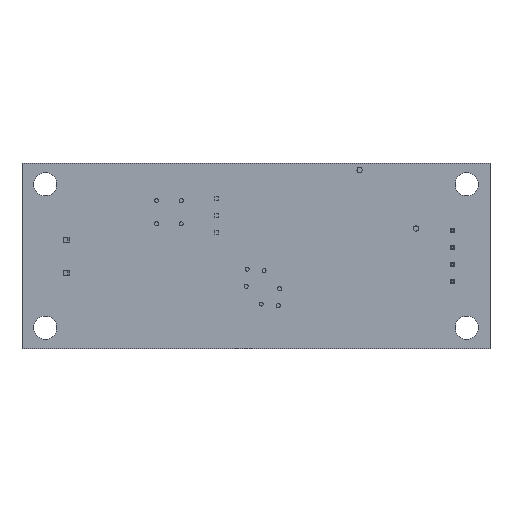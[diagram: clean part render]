
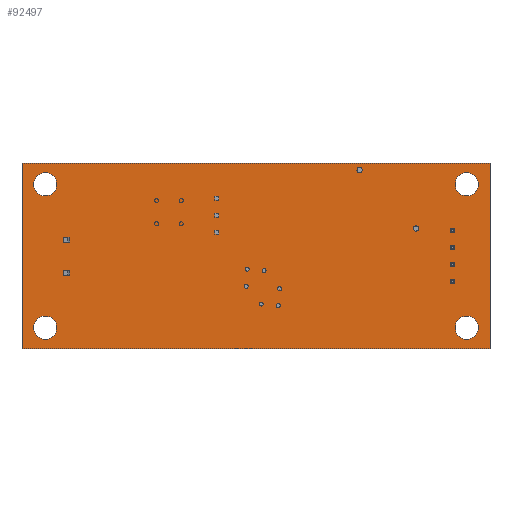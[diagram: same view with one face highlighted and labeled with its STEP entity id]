
A CAD part, front view. The second image highlights one B-rep face of the part: STEP entity #92497.
In plain terms, the highlighted planar face has unit normal (0, -1, 0) as drawn and (0, 0, -1) by its records, which use the part's own axes.
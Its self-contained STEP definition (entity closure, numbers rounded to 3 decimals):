
#2093 = ORIENTED_EDGE ( 'NONE', *, *, #18227, .F. ) ;
#3780 = CARTESIAN_POINT ( 'NONE',  ( 40.925, 49.225, -1. ) ) ;
#3992 = AXIS2_PLACEMENT_3D ( 'NONE', #22429, #101282, #66297 ) ;
#4929 = FACE_BOUND ( 'NONE', #37560, .T. ) ;
#6215 = CARTESIAN_POINT ( 'NONE',  ( 40.925, 77.165, -1. ) ) ;
#7015 = EDGE_LOOP ( 'NONE', ( #67531, #120065 ) ) ;
#7872 = VECTOR ( 'NONE', #119106, 1000. ) ;
#8015 = VERTEX_POINT ( 'NONE', #140858 ) ;
#10531 = CARTESIAN_POINT ( 'NONE',  ( 46.175, 73.99, -1. ) ) ;
#11826 = CIRCLE ( 'NONE', #101366, 1.75 ) ;
#12283 = ORIENTED_EDGE ( 'NONE', *, *, #83064, .T. ) ;
#13097 = LINE ( 'NONE', #6215, #7872 ) ;
#14016 = CARTESIAN_POINT ( 'NONE',  ( 44.425, 73.99, -1. ) ) ;
#14518 = EDGE_CURVE ( 'NONE', #93485, #129705, #59864, .T. ) ;
#14736 = DIRECTION ( 'NONE',  ( -1., 0., 0. ) ) ;
#16379 = CARTESIAN_POINT ( 'NONE',  ( 109.675, 52.4, -1. ) ) ;
#18227 = EDGE_CURVE ( 'NONE', #66218, #110056, #63214, .T. ) ;
#20766 = EDGE_CURVE ( 'NONE', #8015, #40365, #85027, .T. ) ;
#21906 = CIRCLE ( 'NONE', #122932, 1.75 ) ;
#21949 = CARTESIAN_POINT ( 'NONE',  ( 109.675, 73.99, -1. ) ) ;
#22341 = CIRCLE ( 'NONE', #137098, 1.75 ) ;
#22429 = CARTESIAN_POINT ( 'NONE',  ( 40.925, 49.225, -1. ) ) ;
#23604 = EDGE_CURVE ( 'NONE', #129705, #66218, #13097, .T. ) ;
#24782 = EDGE_LOOP ( 'NONE', ( #110118, #121414 ) ) ;
#27899 = CARTESIAN_POINT ( 'NONE',  ( 44.425, 52.4, -1. ) ) ;
#28104 = DIRECTION ( 'NONE',  ( 0., 0., 1. ) ) ;
#28133 = DIRECTION ( 'NONE',  ( 1., 0., 0. ) ) ;
#29070 = DIRECTION ( 'NONE',  ( 1., 0., 0. ) ) ;
#29470 = EDGE_CURVE ( 'NONE', #67763, #128928, #11826, .T. ) ;
#29803 = CARTESIAN_POINT ( 'NONE',  ( 107.925, 73.99, -1. ) ) ;
#29827 = EDGE_CURVE ( 'NONE', #40365, #8015, #71676, .T. ) ;
#31413 = FACE_OUTER_BOUND ( 'NONE', #120724, .T. ) ;
#31708 = CARTESIAN_POINT ( 'NONE',  ( 111.425, 77.165, -1. ) ) ;
#32410 = ORIENTED_EDGE ( 'NONE', *, *, #14518, .F. ) ;
#34958 = FACE_BOUND ( 'NONE', #68244, .T. ) ;
#37560 = EDGE_LOOP ( 'NONE', ( #110985, #43966 ) ) ;
#38717 = EDGE_CURVE ( 'NONE', #49362, #120329, #21906, .T. ) ;
#39193 = EDGE_CURVE ( 'NONE', #83913, #84195, #22341, .T. ) ;
#40365 = VERTEX_POINT ( 'NONE', #21949 ) ;
#43966 = ORIENTED_EDGE ( 'NONE', *, *, #97110, .T. ) ;
#45128 = PLANE ( 'NONE',  #3992 ) ;
#45205 = CARTESIAN_POINT ( 'NONE',  ( 111.425, 77.165, -1. ) ) ;
#49362 = VERTEX_POINT ( 'NONE', #10531 ) ;
#50508 = LINE ( 'NONE', #45205, #75254 ) ;
#54118 = AXIS2_PLACEMENT_3D ( 'NONE', #27899, #94502, #141294 ) ;
#59864 = LINE ( 'NONE', #117768, #144450 ) ;
#63214 = LINE ( 'NONE', #78895, #86143 ) ;
#63821 = DIRECTION ( 'NONE',  ( 0., 0., 1. ) ) ;
#64611 = AXIS2_PLACEMENT_3D ( 'NONE', #29803, #63821, #76155 ) ;
#64934 = FACE_BOUND ( 'NONE', #7015, .T. ) ;
#66218 = VERTEX_POINT ( 'NONE', #3780 ) ;
#66297 = DIRECTION ( 'NONE',  ( 1., 0., 0. ) ) ;
#67062 = CARTESIAN_POINT ( 'NONE',  ( 46.175, 52.4, -1. ) ) ;
#67531 = ORIENTED_EDGE ( 'NONE', *, *, #39193, .T. ) ;
#67763 = VERTEX_POINT ( 'NONE', #16379 ) ;
#68244 = EDGE_LOOP ( 'NONE', ( #71065, #12283 ) ) ;
#68876 = CARTESIAN_POINT ( 'NONE',  ( 107.925, 73.99, -1. ) ) ;
#71065 = ORIENTED_EDGE ( 'NONE', *, *, #38717, .T. ) ;
#71676 = CIRCLE ( 'NONE', #123227, 1.75 ) ;
#75009 = DIRECTION ( 'NONE',  ( 0., 0., 1. ) ) ;
#75254 = VECTOR ( 'NONE', #133953, 1000. ) ;
#76155 = DIRECTION ( 'NONE',  ( 1., 0., 0. ) ) ;
#77753 = AXIS2_PLACEMENT_3D ( 'NONE', #117378, #83407, #28133 ) ;
#78895 = CARTESIAN_POINT ( 'NONE',  ( 40.925, 49.225, -1. ) ) ;
#80131 = DIRECTION ( 'NONE',  ( 1., 0., 0. ) ) ;
#83064 = EDGE_CURVE ( 'NONE', #120329, #49362, #95449, .T. ) ;
#83407 = DIRECTION ( 'NONE',  ( 0., 0., 1. ) ) ;
#83913 = VERTEX_POINT ( 'NONE', #67062 ) ;
#84195 = VERTEX_POINT ( 'NONE', #115641 ) ;
#85027 = CIRCLE ( 'NONE', #64611, 1.75 ) ;
#85313 = CARTESIAN_POINT ( 'NONE',  ( 107.925, 52.4, -1. ) ) ;
#85743 = CARTESIAN_POINT ( 'NONE',  ( 40.925, 77.165, -1. ) ) ;
#86143 = VECTOR ( 'NONE', #101025, 1000. ) ;
#86301 = ORIENTED_EDGE ( 'NONE', *, *, #23604, .F. ) ;
#86838 = CARTESIAN_POINT ( 'NONE',  ( 44.425, 52.4, -1. ) ) ;
#87047 = DIRECTION ( 'NONE',  ( 0., 0., 1. ) ) ;
#88279 = AXIS2_PLACEMENT_3D ( 'NONE', #98391, #87047, #133333 ) ;
#91426 = FACE_BOUND ( 'NONE', #24782, .T. ) ;
#92497 = ADVANCED_FACE ( 'NONE', ( #64934, #34958, #4929, #91426, #31413 ), #45128, .F. ) ;
#93485 = VERTEX_POINT ( 'NONE', #31708 ) ;
#94502 = DIRECTION ( 'NONE',  ( 0., 0., 1. ) ) ;
#95449 = CIRCLE ( 'NONE', #88279, 1.75 ) ;
#97110 = EDGE_CURVE ( 'NONE', #128928, #67763, #106356, .T. ) ;
#98391 = CARTESIAN_POINT ( 'NONE',  ( 44.425, 73.99, -1. ) ) ;
#99208 = EDGE_CURVE ( 'NONE', #110056, #93485, #50508, .T. ) ;
#100787 = CARTESIAN_POINT ( 'NONE',  ( 106.175, 52.4, -1. ) ) ;
#101025 = DIRECTION ( 'NONE',  ( 1., 0., 0. ) ) ;
#101282 = DIRECTION ( 'NONE',  ( 0., 0., 1. ) ) ;
#101366 = AXIS2_PLACEMENT_3D ( 'NONE', #85313, #28104, #29070 ) ;
#104722 = CARTESIAN_POINT ( 'NONE',  ( 42.675, 73.99, -1. ) ) ;
#106356 = CIRCLE ( 'NONE', #77753, 1.75 ) ;
#108959 = DIRECTION ( 'NONE',  ( 1., 0., 0. ) ) ;
#110056 = VERTEX_POINT ( 'NONE', #122781 ) ;
#110118 = ORIENTED_EDGE ( 'NONE', *, *, #29827, .T. ) ;
#110985 = ORIENTED_EDGE ( 'NONE', *, *, #29470, .T. ) ;
#111262 = EDGE_CURVE ( 'NONE', #84195, #83913, #133578, .T. ) ;
#114589 = DIRECTION ( 'NONE',  ( 0., 0., 1. ) ) ;
#114732 = DIRECTION ( 'NONE',  ( 1., 0., 0. ) ) ;
#115641 = CARTESIAN_POINT ( 'NONE',  ( 42.675, 52.4, -1. ) ) ;
#117378 = CARTESIAN_POINT ( 'NONE',  ( 107.925, 52.4, -1. ) ) ;
#117768 = CARTESIAN_POINT ( 'NONE',  ( 40.925, 77.165, -1. ) ) ;
#118644 = ORIENTED_EDGE ( 'NONE', *, *, #99208, .F. ) ;
#119106 = DIRECTION ( 'NONE',  ( 0., -1., 0. ) ) ;
#120065 = ORIENTED_EDGE ( 'NONE', *, *, #111262, .T. ) ;
#120329 = VERTEX_POINT ( 'NONE', #104722 ) ;
#120724 = EDGE_LOOP ( 'NONE', ( #86301, #32410, #118644, #2093 ) ) ;
#121414 = ORIENTED_EDGE ( 'NONE', *, *, #20766, .T. ) ;
#122781 = CARTESIAN_POINT ( 'NONE',  ( 111.425, 49.225, -1. ) ) ;
#122932 = AXIS2_PLACEMENT_3D ( 'NONE', #14016, #114589, #80131 ) ;
#123227 = AXIS2_PLACEMENT_3D ( 'NONE', #68876, #136892, #114732 ) ;
#128928 = VERTEX_POINT ( 'NONE', #100787 ) ;
#129705 = VERTEX_POINT ( 'NONE', #85743 ) ;
#133333 = DIRECTION ( 'NONE',  ( 1., 0., 0. ) ) ;
#133578 = CIRCLE ( 'NONE', #54118, 1.75 ) ;
#133953 = DIRECTION ( 'NONE',  ( 0., 1., 0. ) ) ;
#136892 = DIRECTION ( 'NONE',  ( 0., 0., 1. ) ) ;
#137098 = AXIS2_PLACEMENT_3D ( 'NONE', #86838, #75009, #108959 ) ;
#140858 = CARTESIAN_POINT ( 'NONE',  ( 106.175, 73.99, -1. ) ) ;
#141294 = DIRECTION ( 'NONE',  ( 1., 0., 0. ) ) ;
#144450 = VECTOR ( 'NONE', #14736, 1000. ) ;
